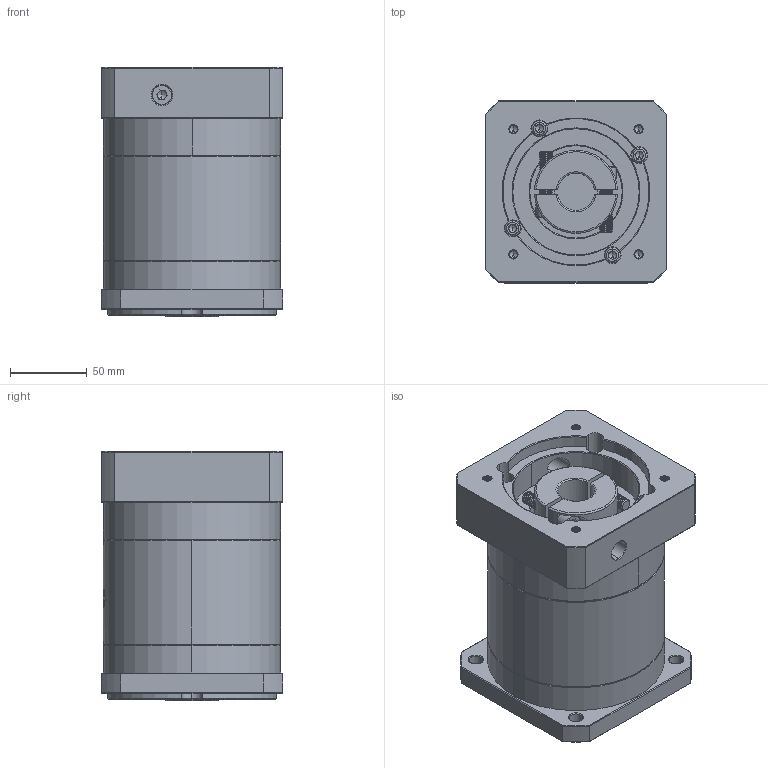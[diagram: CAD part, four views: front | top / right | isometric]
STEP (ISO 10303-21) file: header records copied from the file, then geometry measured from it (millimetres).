
FILE_DESCRIPTION (( 'STEP AP214' ), '1' );
FILE_NAME ('ZF120A-K25-L2-P2-24-95-115-M6.step', '2023-08-27T04:52:03', ( '' ), ( '' ), 'SwSTEP 2.0', 'SolidWorks 2016', '' );
FILE_SCHEMA (( 'AUTOMOTIVE_DESIGN' ));
Length unit declared in the file: millimetre
Products named in the file (1): ZF120A-K25-L2-P2-24-95-115-M6
Bounding box: 118 x 118 x 162 mm (x, y, z)
Volume: 1610996.3 mm3; surface area: 166238.5 mm2
Topology: 6 solids, 6 shells, 2181 faces, 5818 edges, 3738 vertices
Faces by surface type: plane 1027, bspline 430, cylinder 388, cone 336
Entity records: 117551 total; most frequent: CARTESIAN_POINT 44404, ORIENTED_EDGE 11580, DIRECTION 8435, EDGE_CURVE 5790, VERTEX_POINT 3738, VECTOR 3049, LINE 3049, AXIS2_PLACEMENT_3D 2693
